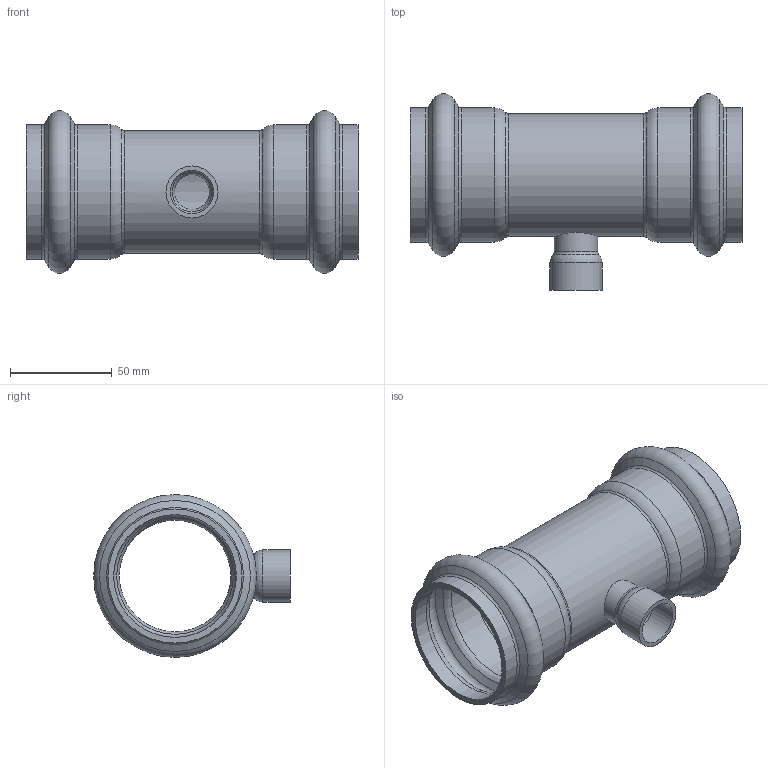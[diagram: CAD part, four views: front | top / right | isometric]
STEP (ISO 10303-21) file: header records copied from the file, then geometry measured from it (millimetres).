
FILE_DESCRIPTION(/* description */ ('VIC TEE RED. BRANCH STYLE P588 (P x P x F)','CAx-IF Rec.Pracs.---Representation and Presentation of Product Manufacturing Information (PMI)---4.0---2014-10-13'),/* implementation_level */ '2;1');
FILE_NAME(/* name */ 'C:\Users\Vjadhav\AppData\Roaming\Autodesk\ApplicationPlugins\Back Up\Victaulic_SS-Vic-Press-TP 304_Tee Threaded_Style P588 (VPxFPT)\Victaulic_SS-Vic-Press-TP 304_Tee Threaded_Style P588 (VPxFPT)_02.0x0.50 (50x15).stp',/* time_stamp */ '2020-08-12T18:49:53+05:00',/* author */ ('cgray'),/* organization */ ('Victaulic'),/* preprocessor_version */ 'ST-DEVELOPER v17.2',/* originating_system */ 'Autodesk Inventor 2019',/* authorisation */ '');
FILE_SCHEMA (('AP242_MANAGED_MODEL_BASED_3D_ENGINEERING_MIM_LF { 1 0 10303 442 1 1 4 }'));
Length unit declared in the file: inch
Products named in the file (1): P588-02.0x0.5
Bounding box: 163.07 x 96.61 x 79.93 mm (x, y, z)
Volume: 100097.6 mm3; surface area: 74492.2 mm2
Topology: 1 solids, 1 shells, 49 faces, 184 edges, 136 vertices
Faces by surface type: torus 24, cylinder 14, cone 8, plane 3
Full cylindrical faces by diameter (mm): 17.12 x1, 21.336 x2, 25.552 x1, 54.788 x1, 60.325 x5, 65.862 x4
Entity records: 2355 total; most frequent: CARTESIAN_POINT 459, DIRECTION 454, ORIENTED_EDGE 368, AXIS2_PLACEMENT_3D 215, EDGE_CURVE 184, CIRCLE 152, VERTEX_POINT 136, EDGE_LOOP 52
